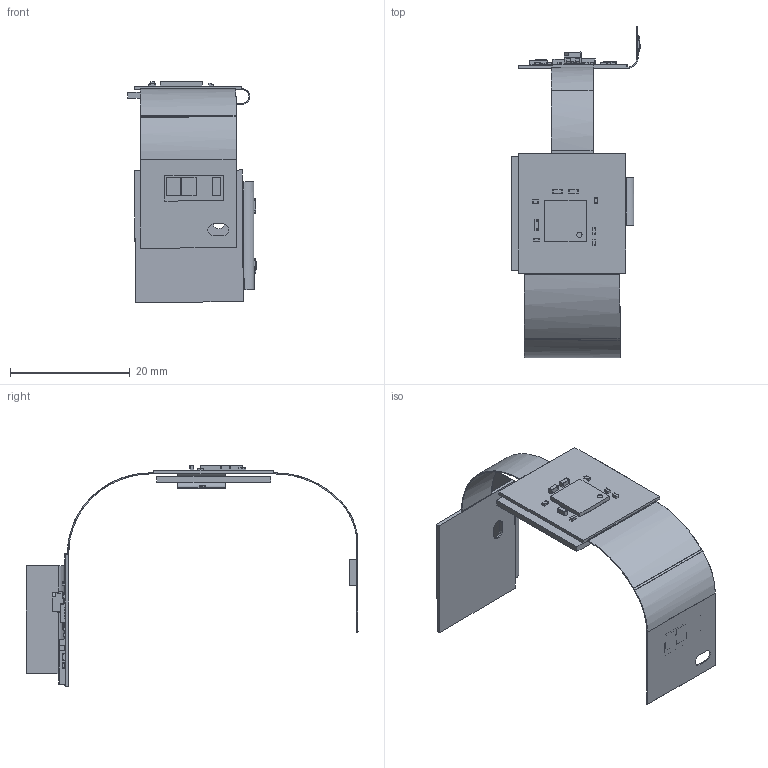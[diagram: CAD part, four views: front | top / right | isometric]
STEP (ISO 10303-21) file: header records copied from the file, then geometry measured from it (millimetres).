
FILE_DESCRIPTION(('Open CASCADE Model'),'2;1');
FILE_NAME('Open CASCADE Shape Model','2018-04-25T20:47:18',('Author'),( 'Open CASCADE'),'Open CASCADE STEP processor 6.8','Open CASCADE 6.8' ,'Unknown');
FILE_SCHEMA(('AUTOMOTIVE_DESIGN { 1 0 10303 214 1 1 1 1 }'));
Length unit declared in the file: millimetre
Products named in the file (145): PCB; Board; PB300; 5886556288; Extruded; 5886556096; 5886555904; Cylinder; C401; 5632237696; Terminal; Open_CASCADE_STEP_translator_6.8_68.1.1; Open_CASCADE_STEP_translator_6.8_68.1.2; Mid_Body; Open_CASCADE_STEP_translator_6.8_68.2.1; R303; 5632240384; Open_CASCADE_STEP_translator_6.8_25.2.1; Mark; R302; U600; CLV1AFKB(?????????_RGB); R602; 5632236160; R601; 5632236352; R600; R401; 5632235968; R400; R101; C400; U400; 5632239616; Open_CASCADE_STEP_translator_6.8_14.1; Body; Open_CASCADE_STEP_translator_6.8_14.2.1; Thermal_Shape; Pin_Shape; Open_CASCADE_STEP_translator_6.8_14.4.1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
Assembly tree (232 placements, depth 5):
  PCB
    Board
    PB300
      5886556288  x4
        Extruded
      5886556096
        Extruded
      5886555904
        Cylinder
    C401
      5632237696
        Terminal
          Open_CASCADE_STEP_translator_6.8_68.1.1
          Open_CASCADE_STEP_translator_6.8_68.1.2
        Mid_Body
          Open_CASCADE_STEP_translator_6.8_68.2.1
    R303
      5632240384
        Mid_Body
        Terminal  x2
          Open_CASCADE_STEP_translator_6.8_25.2.1
        Mark
    R302
      5632240384
        Mid_Body
        Terminal  x2
          Open_CASCADE_STEP_translator_6.8_25.2.1
        Mark
    U600
      CLV1AFKB(?????????_RGB)
    R602
      5632236160
        Mid_Body
        Terminal  x2
          Open_CASCADE_STEP_translator_6.8_25.2.1
        Mark
    R601
      5632236352
        Mid_Body
        Terminal  x2
          Open_CASCADE_STEP_translator_6.8_25.2.1
        Mark
    R600
      5632236160
        Mid_Body
        Terminal  x2
          Open_CASCADE_STEP_translator_6.8_25.2.1
        Mark
    R401
      5632235968
        Mid_Body
        Terminal  x2
          Open_CASCADE_STEP_translator_6.8_25.2.1
        Mark
    R400
      5632235968
        Mid_Body
        Terminal  x2
          Open_CASCADE_STEP_translator_6.8_25.2.1
        Mark
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Bounding box: 21.38 x 55.44 x 36.9 mm (x, y, z)
Volume: 1045.5 mm3; surface area: 4983.3 mm2
Topology: 193 solids, 198 shells, 1894 faces, 4128 edges, 2517 vertices
Faces by surface type: plane 1476, cylinder 304, sphere 112, bspline 2
Full cylindrical faces by diameter (mm): 0.375 x1, 0.875 x1, 1.4 x2
Entity records: 26239 total; most frequent: DIRECTION 4223, CARTESIAN_POINT 4136, ORIENTED_EDGE 3556, EDGE_CURVE 1779, AXIS2_PLACEMENT_3D 1440, LINE 1343, VECTOR 1343, VERTEX_POINT 1107
